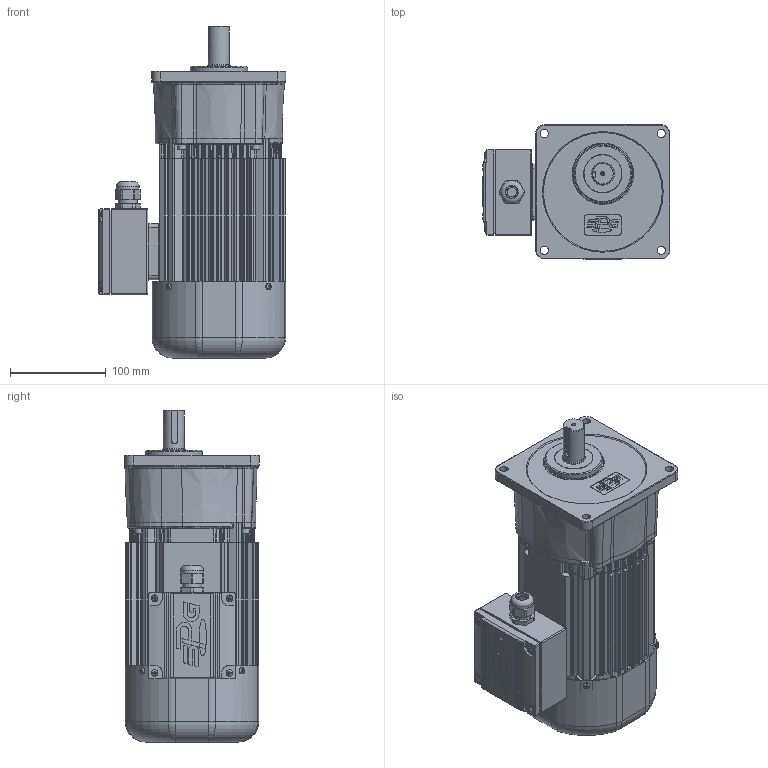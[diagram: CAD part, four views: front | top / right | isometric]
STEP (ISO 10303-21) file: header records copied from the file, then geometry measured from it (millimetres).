
FILE_DESCRIPTION(/* description */ (''),/* implementation_level */ '2;1');
FILE_NAME(/* name */ 'Z:\동력 3D 파일\PAK22_0.4kW_Brake_3D.stp',/* time_stamp */ '2021-11-09T08:40:44+09:00',/* author */ ('jaebok'),/* organization */ (''),/* preprocessor_version */ 'ST-DEVELOPER v18.1',/* originating_system */ 'Autodesk Inventor 2022',/* authorisation */ '');
FILE_SCHEMA (('AUTOMOTIVE_DESIGN { 1 0 10303 214 3 1 1 }'));
Products named in the file (1): 부품8
Bounding box: 196 x 140 x 346.5 mm (x, y, z)
Volume: 1564586.1 mm3; surface area: 556881.8 mm2
Topology: 3 solids, 27 shells, 3045 faces, 7681 edges, 4635 vertices
Faces by surface type: plane 1013, cylinder 892, bspline 656, torus 243, cone 169, sphere 72
Full cylindrical faces by diameter (mm): 1.5 x2, 2 x5, 3 x8, 3.242 x5, 3.25 x1, 3.3 x4, 3.6 x4, 3.8 x3, 4 x25, 4.2 x12, 4.917 x4, 5 x25, 5.5 x4, 5.8 x2, 5.9 x3, 6 x14, 6.4 x1, 6.5 x6, 7 x12, 7.9 x6, 8 x7, 8.5 x5, 8.6 x4, 8.7 x1, 10 x1, 12.5 x1, 14 x1, 15 x1, 15.5 x1, 18 x1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
Entity records: 118818 total; most frequent: CARTESIAN_POINT 46691, ORIENTED_EDGE 15036, DIRECTION 13784, EDGE_CURVE 7518, AXIS2_PLACEMENT_3D 5548, VERTEX_POINT 4631, EDGE_LOOP 3308, CIRCLE 3057
